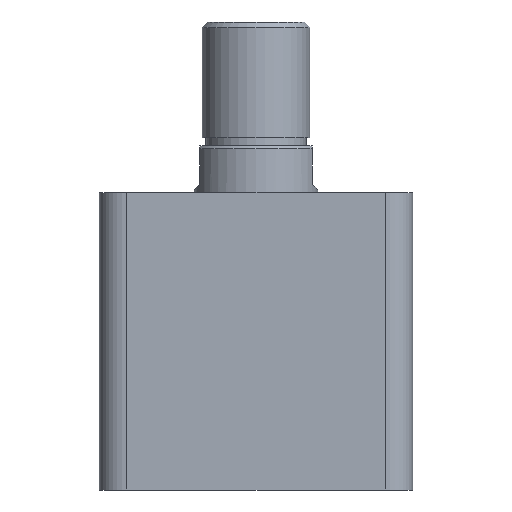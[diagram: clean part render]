
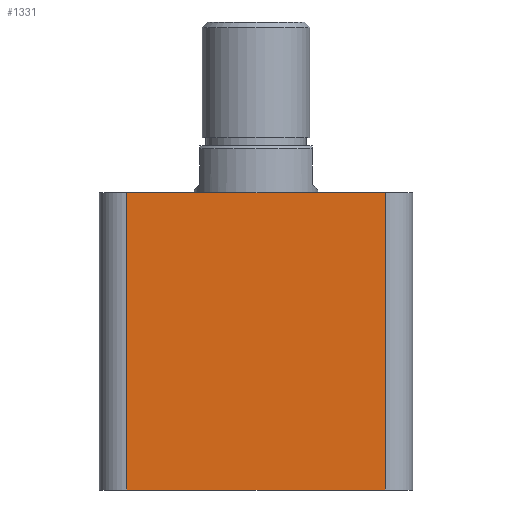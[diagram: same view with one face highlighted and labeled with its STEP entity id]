
A CAD part, front view. The second image highlights one B-rep face of the part: STEP entity #1331.
In plain terms, the highlighted planar face has unit normal (0, -1, 0).
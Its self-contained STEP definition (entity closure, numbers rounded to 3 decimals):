
#403 = EDGE_LOOP ( 'NONE', ( #2380, #2381, #2382, #2383 ) ) ;
#428 = DIRECTION ( 'NONE',  ( 0., 0., 1. ) ) ;
#429 = DIRECTION ( 'NONE',  ( 0., 1., 0. ) ) ;
#430 = PLANE ( 'NONE',  #641 ) ;
#444 = CARTESIAN_POINT ( 'NONE',  ( -57., -57., 108. ) ) ;
#641 = AXIS2_PLACEMENT_3D ( 'NONE', #444, #429, #428 ) ;
#1086 = LINE ( 'NONE', #2656, #1097 ) ;
#1092 = LINE ( 'NONE', #1674, #1095 ) ;
#1095 = VECTOR ( 'NONE', #1675, 1000. ) ;
#1096 = LINE ( 'NONE', #1677, #1099 ) ;
#1097 = VECTOR ( 'NONE', #1676, 1000. ) ;
#1098 = LINE ( 'NONE', #1679, #1101 ) ;
#1099 = VECTOR ( 'NONE', #1678, 1000. ) ;
#1101 = VECTOR ( 'NONE', #1680, 1000. ) ;
#1297 = FACE_OUTER_BOUND ( 'NONE', #403, .T. ) ;
#1331 = ADVANCED_FACE ( 'NONE', ( #1297 ), #430, .F. ) ;
#1463 = VERTEX_POINT ( 'NONE', #2018 ) ;
#1464 = VERTEX_POINT ( 'NONE', #2019 ) ;
#1465 = VERTEX_POINT ( 'NONE', #2020 ) ;
#1674 = CARTESIAN_POINT ( 'NONE',  ( -57., -57., 0. ) ) ;
#1675 = DIRECTION ( 'NONE',  ( 1., 0., 0. ) ) ;
#1676 = DIRECTION ( 'NONE',  ( 0., 0., 1. ) ) ;
#1677 = CARTESIAN_POINT ( 'NONE',  ( -57., -57., 108. ) ) ;
#1678 = DIRECTION ( 'NONE',  ( 1., 0., 0. ) ) ;
#1679 = CARTESIAN_POINT ( 'NONE',  ( -47., -57., 108. ) ) ;
#1680 = DIRECTION ( 'NONE',  ( 0., 0., -1. ) ) ;
#1794 = CARTESIAN_POINT ( 'NONE',  ( -47., -57., 0. ) ) ;
#1939 = EDGE_CURVE ( 'NONE', #2265, #1465, #1092, .T. ) ;
#1940 = EDGE_CURVE ( 'NONE', #1465, #1463, #1086, .T. ) ;
#1941 = EDGE_CURVE ( 'NONE', #1464, #1463, #1096, .T. ) ;
#1942 = EDGE_CURVE ( 'NONE', #1464, #2265, #1098, .T. ) ;
#2018 = CARTESIAN_POINT ( 'NONE',  ( 47., -57., 108. ) ) ;
#2019 = CARTESIAN_POINT ( 'NONE',  ( -47., -57., 108. ) ) ;
#2020 = CARTESIAN_POINT ( 'NONE',  ( 47., -57., 0. ) ) ;
#2265 = VERTEX_POINT ( 'NONE', #1794 ) ;
#2380 = ORIENTED_EDGE ( 'NONE', *, *, #1939, .T. ) ;
#2381 = ORIENTED_EDGE ( 'NONE', *, *, #1940, .T. ) ;
#2382 = ORIENTED_EDGE ( 'NONE', *, *, #1941, .F. ) ;
#2383 = ORIENTED_EDGE ( 'NONE', *, *, #1942, .T. ) ;
#2656 = CARTESIAN_POINT ( 'NONE',  ( 47., -57., 108. ) ) ;
